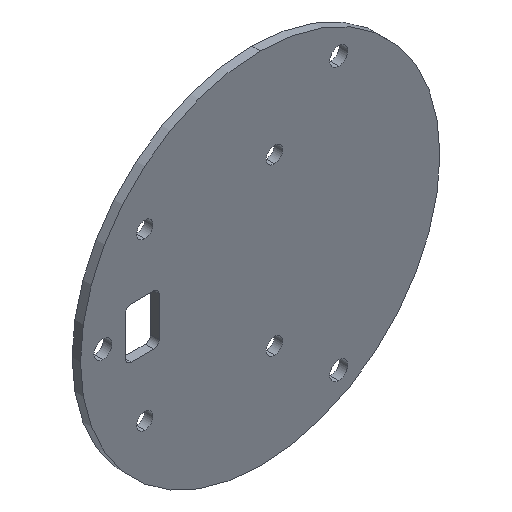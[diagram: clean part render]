
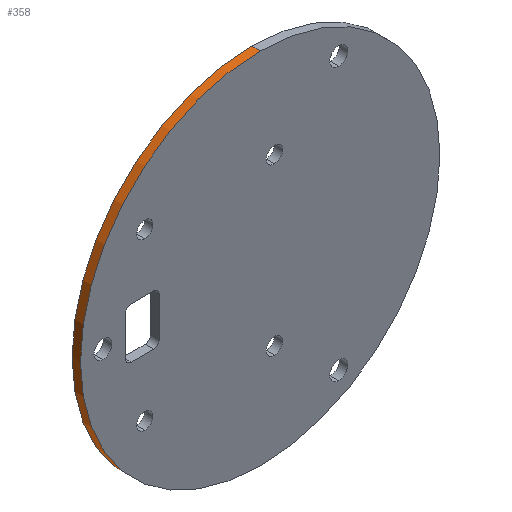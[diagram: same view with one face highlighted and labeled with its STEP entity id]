
A CAD part, isometric view. The second image highlights one B-rep face of the part: STEP entity #358.
In plain terms, the highlighted cylindrical face has radius 32 mm (diameter 64 mm), a partial arc.
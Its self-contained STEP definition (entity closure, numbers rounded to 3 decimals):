
#4 = EDGE_CURVE ( 'NONE', #328, #68, #322, .T. ) ;
#21 = CARTESIAN_POINT ( 'NONE',  ( 0., 0., 0. ) ) ;
#43 = DIRECTION ( 'NONE',  ( 0., 0., 1. ) ) ;
#63 = CARTESIAN_POINT ( 'NONE',  ( 0., -1.5, 32. ) ) ;
#68 = VERTEX_POINT ( 'NONE', #192 ) ;
#82 = EDGE_CURVE ( 'NONE', #600, #68, #899, .T. ) ;
#131 = VERTEX_POINT ( 'NONE', #832 ) ;
#147 = ORIENTED_EDGE ( 'NONE', *, *, #82, .T. ) ;
#175 = EDGE_CURVE ( 'NONE', #131, #328, #699, .T. ) ;
#192 = CARTESIAN_POINT ( 'NONE',  ( 0., 0., 32. ) ) ;
#215 = ORIENTED_EDGE ( 'NONE', *, *, #4, .F. ) ;
#262 = DIRECTION ( 'NONE',  ( 0., 1., 0. ) ) ;
#282 = AXIS2_PLACEMENT_3D ( 'NONE', #907, #488, #43 ) ;
#303 = CARTESIAN_POINT ( 'NONE',  ( 0., 0., -32. ) ) ;
#318 = CARTESIAN_POINT ( 'NONE',  ( 0., -1.5, 0. ) ) ;
#322 = CIRCLE ( 'NONE', #338, 32. ) ;
#328 = VERTEX_POINT ( 'NONE', #303 ) ;
#331 = CARTESIAN_POINT ( 'NONE',  ( 0., -1.5, 32. ) ) ;
#338 = AXIS2_PLACEMENT_3D ( 'NONE', #21, #876, #392 ) ;
#347 = CARTESIAN_POINT ( 'NONE',  ( 0., -1.5, -32. ) ) ;
#358 = ADVANCED_FACE ( 'NONE', ( #377 ), #745, .T. ) ;
#367 = EDGE_LOOP ( 'NONE', ( #423, #905, #147, #215 ) ) ;
#377 = FACE_OUTER_BOUND ( 'NONE', #367, .T. ) ;
#382 = VECTOR ( 'NONE', #262, 1000. ) ;
#392 = DIRECTION ( 'NONE',  ( 0., 0., 1. ) ) ;
#401 = VECTOR ( 'NONE', #702, 1000. ) ;
#423 = ORIENTED_EDGE ( 'NONE', *, *, #175, .F. ) ;
#488 = DIRECTION ( 'NONE',  ( 0., 1., 0. ) ) ;
#502 = EDGE_CURVE ( 'NONE', #131, #600, #829, .T. ) ;
#585 = DIRECTION ( 'NONE',  ( 0., 1., 0. ) ) ;
#600 = VERTEX_POINT ( 'NONE', #63 ) ;
#665 = AXIS2_PLACEMENT_3D ( 'NONE', #318, #585, #797 ) ;
#699 = LINE ( 'NONE', #347, #401 ) ;
#702 = DIRECTION ( 'NONE',  ( 0., 1., 0. ) ) ;
#745 = CYLINDRICAL_SURFACE ( 'NONE', #665, 32. ) ;
#797 = DIRECTION ( 'NONE',  ( 0., 0., 1. ) ) ;
#829 = CIRCLE ( 'NONE', #282, 32. ) ;
#832 = CARTESIAN_POINT ( 'NONE',  ( 0., -1.5, -32. ) ) ;
#876 = DIRECTION ( 'NONE',  ( 0., 1., 0. ) ) ;
#899 = LINE ( 'NONE', #331, #382 ) ;
#905 = ORIENTED_EDGE ( 'NONE', *, *, #502, .T. ) ;
#907 = CARTESIAN_POINT ( 'NONE',  ( 0., -1.5, 0. ) ) ;
